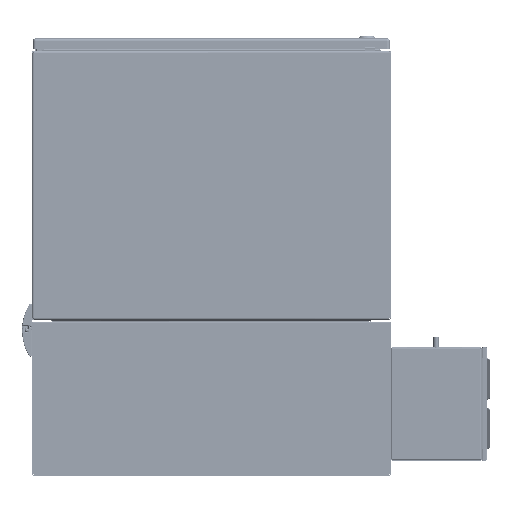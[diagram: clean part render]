
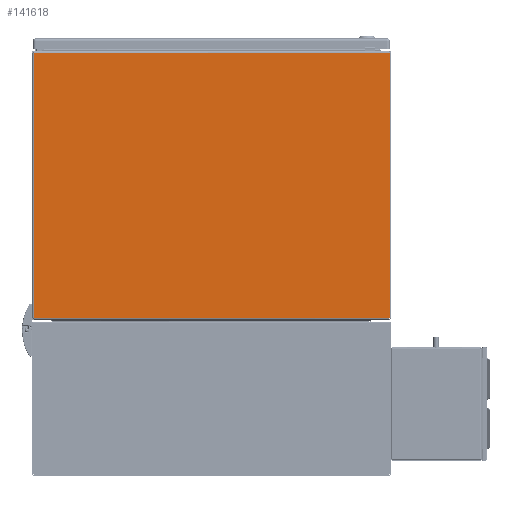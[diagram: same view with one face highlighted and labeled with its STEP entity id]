
A CAD part, front view. The second image highlights one B-rep face of the part: STEP entity #141618.
In plain terms, the highlighted planar face has unit normal (0, -1, 0).
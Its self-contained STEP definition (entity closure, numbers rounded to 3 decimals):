
#1436 = FACE_OUTER_BOUND ( 'NONE', #30813, .T. ) ;
#22763 = CARTESIAN_POINT ( 'NONE',  ( 1.753, 0., -225. ) ) ;
#22771 = PLANE ( 'NONE',  #63204 ) ;
#22777 = DIRECTION ( 'NONE',  ( 0., 1., 0. ) ) ;
#22779 = DIRECTION ( 'NONE',  ( -1., 0., 0. ) ) ;
#30813 = EDGE_LOOP ( 'NONE', ( #86758, #86753, #86750, #86745 ) ) ;
#63204 = AXIS2_PLACEMENT_3D ( 'NONE', #22763, #22777, #22779 ) ;
#78735 = CARTESIAN_POINT ( 'NONE',  ( 597.892, 0., 220.707 ) ) ;
#78743 = DIRECTION ( 'NONE',  ( -1., 0., 0. ) ) ;
#78781 = CARTESIAN_POINT ( 'NONE',  ( 597.892, 0., -225. ) ) ;
#78782 = DIRECTION ( 'NONE',  ( 0., 0., 1. ) ) ;
#78784 = CARTESIAN_POINT ( 'NONE',  ( 4.293, 0., -220.707 ) ) ;
#78785 = DIRECTION ( 'NONE',  ( 1., 0., 0. ) ) ;
#78789 = CARTESIAN_POINT ( 'NONE',  ( 4.293, 0., 225. ) ) ;
#78791 = DIRECTION ( 'NONE',  ( 0., 0., 1. ) ) ;
#86745 = ORIENTED_EDGE ( 'NONE', *, *, #182617, .F. ) ;
#86750 = ORIENTED_EDGE ( 'NONE', *, *, #182582, .T. ) ;
#86753 = ORIENTED_EDGE ( 'NONE', *, *, #182610, .T. ) ;
#86758 = ORIENTED_EDGE ( 'NONE', *, *, #182614, .T. ) ;
#141618 = ADVANCED_FACE ( 'NONE', ( #1436 ), #22771, .F. ) ;
#182582 = EDGE_CURVE ( 'NONE', #215932, #215918, #258132, .T. ) ;
#182610 = EDGE_CURVE ( 'NONE', #215937, #215932, #258149, .T. ) ;
#182614 = EDGE_CURVE ( 'NONE', #215921, #215937, #258157, .T. ) ;
#182617 = EDGE_CURVE ( 'NONE', #215921, #215918, #258159, .T. ) ;
#215918 = VERTEX_POINT ( 'NONE', #227810 ) ;
#215921 = VERTEX_POINT ( 'NONE', #227812 ) ;
#215932 = VERTEX_POINT ( 'NONE', #227816 ) ;
#215937 = VERTEX_POINT ( 'NONE', #227819 ) ;
#227810 = CARTESIAN_POINT ( 'NONE',  ( 4.293, 0., 220.707 ) ) ;
#227812 = CARTESIAN_POINT ( 'NONE',  ( 4.293, 0., -220.707 ) ) ;
#227816 = CARTESIAN_POINT ( 'NONE',  ( 597.892, 0., 220.707 ) ) ;
#227819 = CARTESIAN_POINT ( 'NONE',  ( 597.892, 0., -220.707 ) ) ;
#258132 = LINE ( 'NONE', #78735, #258142 ) ;
#258142 = VECTOR ( 'NONE', #78743, 1000. ) ;
#258149 = LINE ( 'NONE', #78781, #258151 ) ;
#258151 = VECTOR ( 'NONE', #78782, 1000. ) ;
#258157 = LINE ( 'NONE', #78784, #258158 ) ;
#258158 = VECTOR ( 'NONE', #78785, 1000. ) ;
#258159 = LINE ( 'NONE', #78789, #258160 ) ;
#258160 = VECTOR ( 'NONE', #78791, 1000. ) ;
